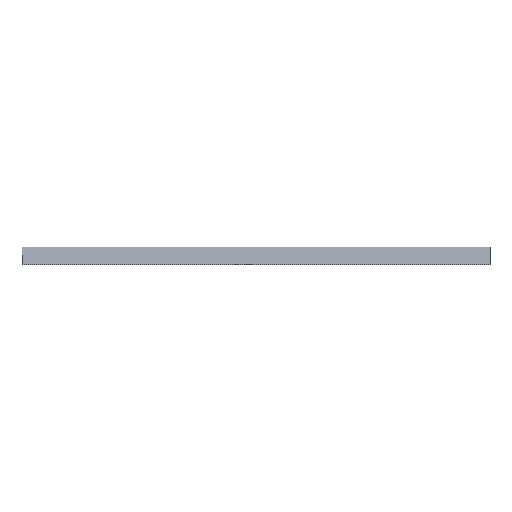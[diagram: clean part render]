
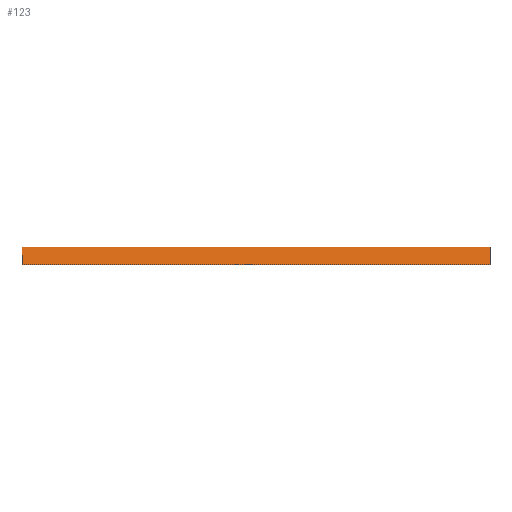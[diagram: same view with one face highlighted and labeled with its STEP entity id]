
A CAD part, top view. The second image highlights one B-rep face of the part: STEP entity #123.
In plain terms, the highlighted planar face has unit normal (0, 0.174, 0.985).
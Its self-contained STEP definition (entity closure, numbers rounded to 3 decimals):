
#67=CARTESIAN_POINT('',(2569.,394.597,1659.992));
#68=VERTEX_POINT('',#67);
#75=CARTESIAN_POINT('',(2569.,274.45,1681.177));
#76=VERTEX_POINT('',#75);
#77=CARTESIAN_POINT('',(2569.,394.597,1659.992));
#78=DIRECTION('',(0.0,-0.985,0.174));
#79=VECTOR('',#78,1.);
#80=LINE('',#77,#79);
#81=EDGE_CURVE('',#68,#76,#80,.T.);
#93=CARTESIAN_POINT('',(2569.,394.597,1659.992));
#94=DIRECTION('',(0.0,0.174,0.985));
#95=DIRECTION('',(-1.0,0.0,0.0));
#96=AXIS2_PLACEMENT_3D('',#93,#94,#95);
#97=PLANE('',#96);
#98=CARTESIAN_POINT('',(-617.,394.597,1659.992));
#99=VERTEX_POINT('',#98);
#100=CARTESIAN_POINT('',(2569.,394.597,1659.992));
#101=DIRECTION('',(-1.0,0.,0.));
#102=VECTOR('',#101,1.);
#103=LINE('',#100,#102);
#104=EDGE_CURVE('',#68,#99,#103,.T.);
#105=ORIENTED_EDGE('',*,*,#104,.T.);
#106=CARTESIAN_POINT('',(-617.,274.45,1681.177));
#107=VERTEX_POINT('',#106);
#108=CARTESIAN_POINT('',(-617.,394.597,1659.992));
#109=DIRECTION('',(0.0,-0.985,0.174));
#110=VECTOR('',#109,1.);
#111=LINE('',#108,#110);
#112=EDGE_CURVE('',#99,#107,#111,.T.);
#113=ORIENTED_EDGE('',*,*,#112,.T.);
#114=CARTESIAN_POINT('',(2569.,274.45,1681.177));
#115=DIRECTION('',(-1.0,0.,0.));
#116=VECTOR('',#115,1.);
#117=LINE('',#114,#116);
#118=EDGE_CURVE('',#76,#107,#117,.T.);
#119=ORIENTED_EDGE('',*,*,#118,.F.);
#120=ORIENTED_EDGE('',*,*,#81,.F.);
#121=EDGE_LOOP('',(#105,#113,#119,#120));
#122=FACE_BOUND('',#121,.T.);
#123=ADVANCED_FACE('',(#122),#97,.T.);
